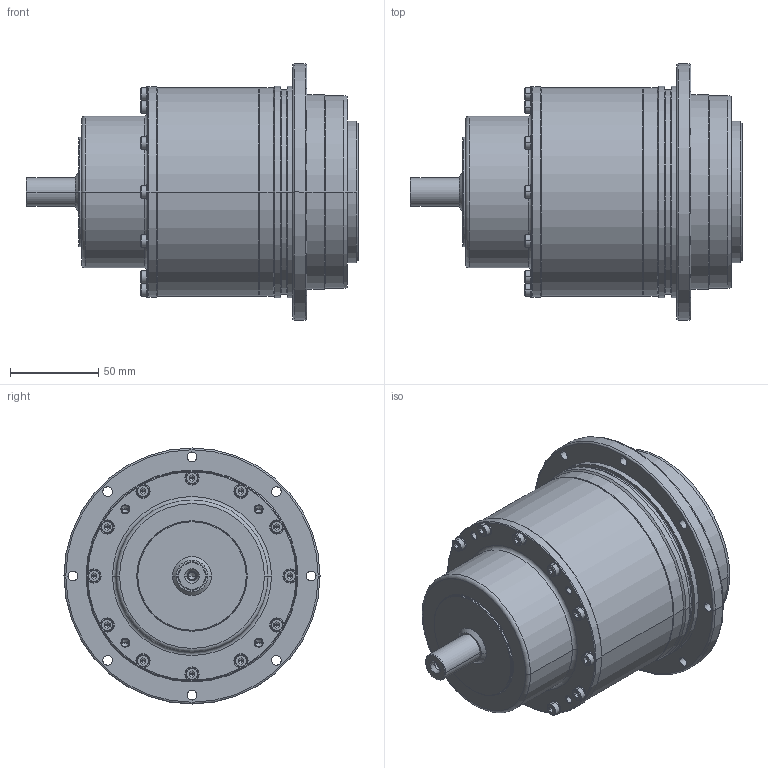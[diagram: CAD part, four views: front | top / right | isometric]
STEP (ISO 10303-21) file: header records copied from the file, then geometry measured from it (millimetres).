
FILE_DESCRIPTION((''),'2;1');
FILE_NAME('ADS110-2_ASM','2007-05-28T',('D00204'),(''),'PRO/ENGINEER BY PARAMETRIC TECHNOLOGY CORPORATION, 2006170','PRO/ENGINEER BY PARAMETRIC TECHNOLOGY CORPORATION, 2006170','');
FILE_SCHEMA(('CONFIG_CONTROL_DESIGN'));
Length unit declared in the file: millimetre
Products named in the file (6): ADS110-2; PK640001; 233100002; 220100511; COVER-SET2-ADS-4_ASM; ADS110-2_ASM
Assembly tree (27 placements, depth 3):
  ADS110-2_ASM
    ADS110-2
    COVER-SET2-ADS-4_ASM
      PK640001
      233100002  x12
      220100511  x12
Bounding box: 188 x 145 x 145 mm (x, y, z)
Volume: 1093363.9 mm3; surface area: 163294.7 mm2
Topology: 26 solids, 54 shells, 911 faces, 1996 edges, 1185 vertices
Faces by surface type: cylinder 380, plane 273, cone 206, torus 52
Entity records: 14189 total; most frequent: DIRECTION 2840, CARTESIAN_POINT 2356, ORIENTED_EDGE 2048, AXIS2_PLACEMENT_3D 1211, EDGE_CURVE 1080, VERTEX_POINT 679, CIRCLE 656, EDGE_LOOP 619
